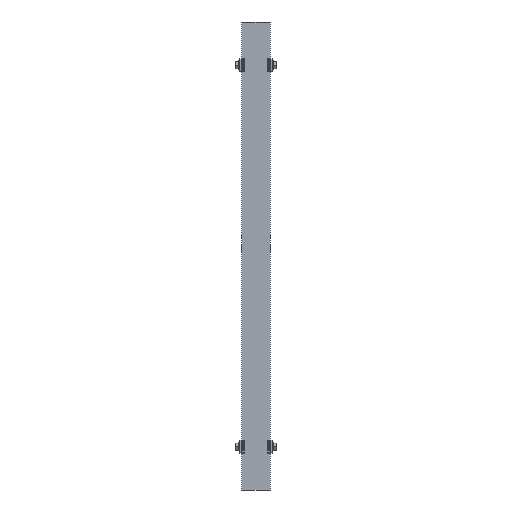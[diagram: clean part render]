
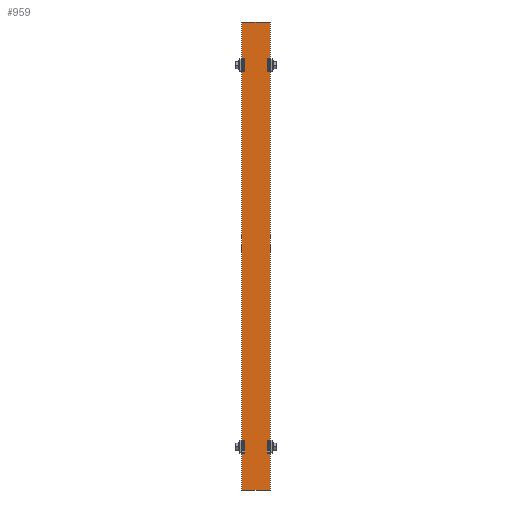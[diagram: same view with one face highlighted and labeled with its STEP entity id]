
A CAD part, front view. The second image highlights one B-rep face of the part: STEP entity #959.
In plain terms, the highlighted planar face has unit normal (0, -1, 0).
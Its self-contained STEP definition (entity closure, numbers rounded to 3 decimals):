
#86=DIRECTION('',(0.,0.,1.));
#87=VECTOR('',#86,540.);
#88=CARTESIAN_POINT('',(-16.6,0.,-270.));
#89=LINE('',#88,#87);
#93=DIRECTION('',(1.,0.,0.));
#94=VECTOR('',#93,33.2);
#95=CARTESIAN_POINT('',(-16.6,0.,270.));
#96=LINE('',#95,#94);
#100=DIRECTION('',(0.,0.,-1.));
#101=VECTOR('',#100,540.);
#102=CARTESIAN_POINT('',(16.6,0.,270.));
#103=LINE('',#102,#101);
#107=DIRECTION('',(-1.,0.,0.));
#108=VECTOR('',#107,33.2);
#109=CARTESIAN_POINT('',(16.6,0.,-270.));
#110=LINE('',#109,#108);
#808=CARTESIAN_POINT('',(-16.6,0.,-270.));
#809=CARTESIAN_POINT('',(-16.6,0.,270.));
#810=VERTEX_POINT('',#808);
#811=VERTEX_POINT('',#809);
#812=CARTESIAN_POINT('',(16.6,0.,270.));
#813=VERTEX_POINT('',#812);
#814=CARTESIAN_POINT('',(16.6,0.,-270.));
#815=VERTEX_POINT('',#814);
#944=CARTESIAN_POINT('',(0.,0.,0.));
#945=DIRECTION('',(0.,1.,0.));
#946=DIRECTION('',(1.,0.,0.));
#947=AXIS2_PLACEMENT_3D('',#944,#945,#946);
#948=PLANE('',#947);
#950=ORIENTED_EDGE('',*,*,#949,.T.);
#952=ORIENTED_EDGE('',*,*,#951,.T.);
#954=ORIENTED_EDGE('',*,*,#953,.T.);
#956=ORIENTED_EDGE('',*,*,#955,.T.);
#957=EDGE_LOOP('',(#950,#952,#954,#956));
#958=FACE_OUTER_BOUND('',#957,.F.);
#959=ADVANCED_FACE('',(#958),#948,.F.);
#949=EDGE_CURVE('',#810,#811,#89,.T.);
#951=EDGE_CURVE('',#811,#813,#96,.T.);
#953=EDGE_CURVE('',#813,#815,#103,.T.);
#955=EDGE_CURVE('',#815,#810,#110,.T.);
